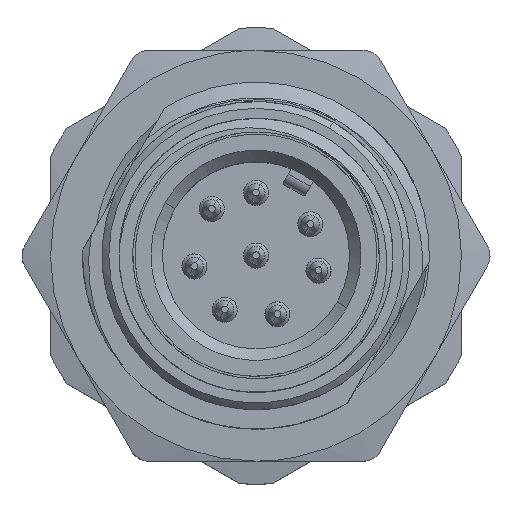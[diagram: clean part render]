
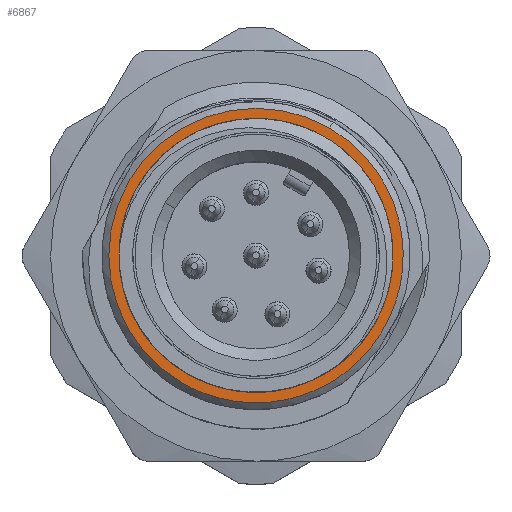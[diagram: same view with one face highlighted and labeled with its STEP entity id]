
A CAD part, top view. The second image highlights one B-rep face of the part: STEP entity #6867.
In plain terms, the highlighted planar face has unit normal (0, 0, 1).
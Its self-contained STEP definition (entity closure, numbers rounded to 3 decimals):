
#304 = CARTESIAN_POINT ( 'NONE',  ( -44.57, 13.778, 21.727 ) ) ;
#758 = CIRCLE ( 'NONE', #18417, 6.45 ) ;
#803 = CARTESIAN_POINT ( 'NONE',  ( -46.139, 25.626, 21.727 ) ) ;
#1193 = CARTESIAN_POINT ( 'NONE',  ( -44.018, 25.489, 21.727 ) ) ;
#1524 = EDGE_LOOP ( 'NONE', ( #12108, #17243 ) ) ;
#1570 = FACE_BOUND ( 'NONE', #6717, .T. ) ;
#2369 = CARTESIAN_POINT ( 'NONE',  ( -39.412, 22.712, 21.727 ) ) ;
#2494 = CARTESIAN_POINT ( 'NONE',  ( -40.26, 16.271, 21.727 ) ) ;
#2621 = CARTESIAN_POINT ( 'NONE',  ( -48.649, 14.641, 21.727 ) ) ;
#3230 = B_SPLINE_CURVE_WITH_KNOTS ( 'NONE', 3,
 ( #23371, #17584, #9145, #18776, #15524, #5769, #7821, #16978, #17456, #15650, #11800, #5035, #16728, #24696, #6964, #14801, #22636, #13005 ),
 .UNSPECIFIED., .F., .F.,
 ( 4, 2, 2, 2, 2, 2, 2, 2, 4 ),
 ( 0., 0.125, 0.25, 0.375, 0.5, 0.625, 0.75, 0.875, 1. ),
 .UNSPECIFIED. ) ;
#3272 = ORIENTED_EDGE ( 'NONE', *, *, #25236, .F. ) ;
#4190 = EDGE_CURVE ( 'NONE', #10644, #14813, #12346, .T. ) ;
#4803 = CARTESIAN_POINT ( 'NONE',  ( -48.124, 15.551, 21.727 ) ) ;
#4928 = DIRECTION ( 'NONE',  ( -0.866, 0.5, 0. ) ) ;
#4933 = CARTESIAN_POINT ( 'NONE',  ( -49.278, 16.379, 21.727 ) ) ;
#5035 = CARTESIAN_POINT ( 'NONE',  ( -39.978, 20.223, 21.727 ) ) ;
#5189 = DIRECTION ( 'NONE',  ( 0., 0., -1. ) ) ;
#5299 = DIRECTION ( 'NONE',  ( 0., 0., -1. ) ) ;
#5484 = B_SPLINE_CURVE_WITH_KNOTS ( 'NONE', 3,
 ( #16753, #16496, #1193, #10461, #803, #10972, #22397, #14827, #12641, #12390, #14566, #22532, #16623, #24464, #18803, #4933, #12513, #4803 ),
 .UNSPECIFIED., .F., .F.,
 ( 4, 2, 2, 2, 2, 2, 2, 2, 4 ),
 ( 0., 0.125, 0.25, 0.375, 0.5, 0.625, 0.75, 0.875, 1. ),
 .UNSPECIFIED. ) ;
#5769 = CARTESIAN_POINT ( 'NONE',  ( -43.343, 15.194, 21.727 ) ) ;
#5990 = AXIS2_PLACEMENT_3D ( 'NONE', #22788, #5189, #4928 ) ;
#6236 = CARTESIAN_POINT ( 'NONE',  ( -47.918, 14.219, 21.727 ) ) ;
#6493 = CARTESIAN_POINT ( 'NONE',  ( -42.167, 14.596, 21.727 ) ) ;
#6717 = EDGE_LOOP ( 'NONE', ( #13273, #3272 ) ) ;
#6867 = ADVANCED_FACE ( 'NONE', ( #1570, #20714 ), #15075, .F. ) ;
#6964 = CARTESIAN_POINT ( 'NONE',  ( -40.709, 22.954, 21.727 ) ) ;
#7226 = CARTESIAN_POINT ( 'NONE',  ( -45.424, 20.227, 21.727 ) ) ;
#7821 = CARTESIAN_POINT ( 'NONE',  ( -42.697, 15.513, 21.727 ) ) ;
#8288 = CARTESIAN_POINT ( 'NONE',  ( -39.793, 23.484, 21.727 ) ) ;
#9145 = CARTESIAN_POINT ( 'NONE',  ( -46.829, 14.966, 21.727 ) ) ;
#10219 = CARTESIAN_POINT ( 'NONE',  ( -42.939, 14.215, 21.727 ) ) ;
#10348 = CARTESIAN_POINT ( 'NONE',  ( -39.139, 18.548, 21.727 ) ) ;
#10461 = CARTESIAN_POINT ( 'NONE',  ( -45.42, 25.673, 21.727 ) ) ;
#10644 = VERTEX_POINT ( 'NONE', #16501 ) ;
#10972 = CARTESIAN_POINT ( 'NONE',  ( -47.504, 25.26, 21.727 ) ) ;
#11245 = VERTEX_POINT ( 'NONE', #21077 ) ;
#11800 = CARTESIAN_POINT ( 'NONE',  ( -40.162, 18.821, 21.727 ) ) ;
#12021 = CARTESIAN_POINT ( 'NONE',  ( -42.199, 25.813, 21.727 ) ) ;
#12108 = ORIENTED_EDGE ( 'NONE', *, *, #4190, .F. ) ;
#12346 = B_SPLINE_CURVE_WITH_KNOTS ( 'NONE', 3,
 ( #12021, #22165, #18310, #8288, #2369, #12405, #19840, #10348, #14076, #2494, #17928, #6493, #10219, #304, #14209, #23962, #6236, #2621 ),
 .UNSPECIFIED., .F., .F.,
 ( 4, 2, 2, 2, 2, 2, 2, 2, 4 ),
 ( 0., 0.125, 0.25, 0.375, 0.5, 0.625, 0.75, 0.875, 1. ),
 .UNSPECIFIED. ) ;
#12390 = CARTESIAN_POINT ( 'NONE',  ( -50.454, 22.315, 21.727 ) ) ;
#12405 = CARTESIAN_POINT ( 'NONE',  ( -38.975, 21.081, 21.727 ) ) ;
#12513 = CARTESIAN_POINT ( 'NONE',  ( -48.736, 15.904, 21.727 ) ) ;
#12641 = CARTESIAN_POINT ( 'NONE',  ( -49.747, 23.539, 21.727 ) ) ;
#12770 = EDGE_CURVE ( 'NONE', #14813, #10644, #758, .T. ) ;
#13005 = CARTESIAN_POINT ( 'NONE',  ( -42.724, 24.904, 21.727 ) ) ;
#13273 = ORIENTED_EDGE ( 'NONE', *, *, #21406, .F. ) ;
#14076 = CARTESIAN_POINT ( 'NONE',  ( -39.416, 17.733, 21.727 ) ) ;
#14209 = CARTESIAN_POINT ( 'NONE',  ( -45.429, 13.722, 21.727 ) ) ;
#14566 = CARTESIAN_POINT ( 'NONE',  ( -50.685, 21.633, 21.727 ) ) ;
#14801 = CARTESIAN_POINT ( 'NONE',  ( -41.57, 24.075, 21.727 ) ) ;
#14813 = VERTEX_POINT ( 'NONE', #23192 ) ;
#14827 = CARTESIAN_POINT ( 'NONE',  ( -49.272, 24.081, 21.727 ) ) ;
#15075 = PLANE ( 'NONE',  #5990 ) ;
#15524 = CARTESIAN_POINT ( 'NONE',  ( -44.709, 14.828, 21.727 ) ) ;
#15650 = CARTESIAN_POINT ( 'NONE',  ( -40.394, 18.139, 21.727 ) ) ;
#16496 = CARTESIAN_POINT ( 'NONE',  ( -43.336, 25.257, 21.727 ) ) ;
#16501 = CARTESIAN_POINT ( 'NONE',  ( -42.199, 25.813, 21.727 ) ) ;
#16623 = CARTESIAN_POINT ( 'NONE',  ( -50.823, 19.512, 21.727 ) ) ;
#16728 = CARTESIAN_POINT ( 'NONE',  ( -40.025, 20.942, 21.727 ) ) ;
#16753 = CARTESIAN_POINT ( 'NONE',  ( -42.724, 24.904, 21.727 ) ) ;
#16978 = CARTESIAN_POINT ( 'NONE',  ( -41.576, 16.373, 21.727 ) ) ;
#17243 = ORIENTED_EDGE ( 'NONE', *, *, #12770, .F. ) ;
#17456 = CARTESIAN_POINT ( 'NONE',  ( -41.101, 16.915, 21.727 ) ) ;
#17584 = CARTESIAN_POINT ( 'NONE',  ( -47.512, 15.197, 21.727 ) ) ;
#17682 = VERTEX_POINT ( 'NONE', #23061 ) ;
#17928 = CARTESIAN_POINT ( 'NONE',  ( -40.827, 15.624, 21.727 ) ) ;
#18310 = CARTESIAN_POINT ( 'NONE',  ( -40.821, 24.823, 21.727 ) ) ;
#18417 = AXIS2_PLACEMENT_3D ( 'NONE', #7226, #5299, #22775 ) ;
#18776 = CARTESIAN_POINT ( 'NONE',  ( -45.428, 14.781, 21.727 ) ) ;
#18803 = CARTESIAN_POINT ( 'NONE',  ( -50.138, 17.501, 21.727 ) ) ;
#19840 = CARTESIAN_POINT ( 'NONE',  ( -38.919, 20.222, 21.727 ) ) ;
#20714 = FACE_OUTER_BOUND ( 'NONE', #1524, .T. ) ;
#21077 = CARTESIAN_POINT ( 'NONE',  ( -48.124, 15.551, 21.727 ) ) ;
#21406 = EDGE_CURVE ( 'NONE', #17682, #11245, #5484, .T. ) ;
#22165 = CARTESIAN_POINT ( 'NONE',  ( -41.468, 25.391, 21.727 ) ) ;
#22397 = CARTESIAN_POINT ( 'NONE',  ( -48.15, 24.941, 21.727 ) ) ;
#22532 = CARTESIAN_POINT ( 'NONE',  ( -50.87, 20.231, 21.727 ) ) ;
#22636 = CARTESIAN_POINT ( 'NONE',  ( -42.112, 24.55, 21.727 ) ) ;
#22775 = DIRECTION ( 'NONE',  ( -0.866, 0.5, 0. ) ) ;
#22788 = CARTESIAN_POINT ( 'NONE',  ( -45.424, 20.227, 21.727 ) ) ;
#23061 = CARTESIAN_POINT ( 'NONE',  ( -42.724, 24.904, 21.727 ) ) ;
#23192 = CARTESIAN_POINT ( 'NONE',  ( -48.649, 14.641, 21.727 ) ) ;
#23371 = CARTESIAN_POINT ( 'NONE',  ( -48.124, 15.551, 21.727 ) ) ;
#23962 = CARTESIAN_POINT ( 'NONE',  ( -47.103, 13.942, 21.727 ) ) ;
#24464 = CARTESIAN_POINT ( 'NONE',  ( -50.457, 18.147, 21.727 ) ) ;
#24696 = CARTESIAN_POINT ( 'NONE',  ( -40.391, 22.307, 21.727 ) ) ;
#25236 = EDGE_CURVE ( 'NONE', #11245, #17682, #3230, .T. ) ;
